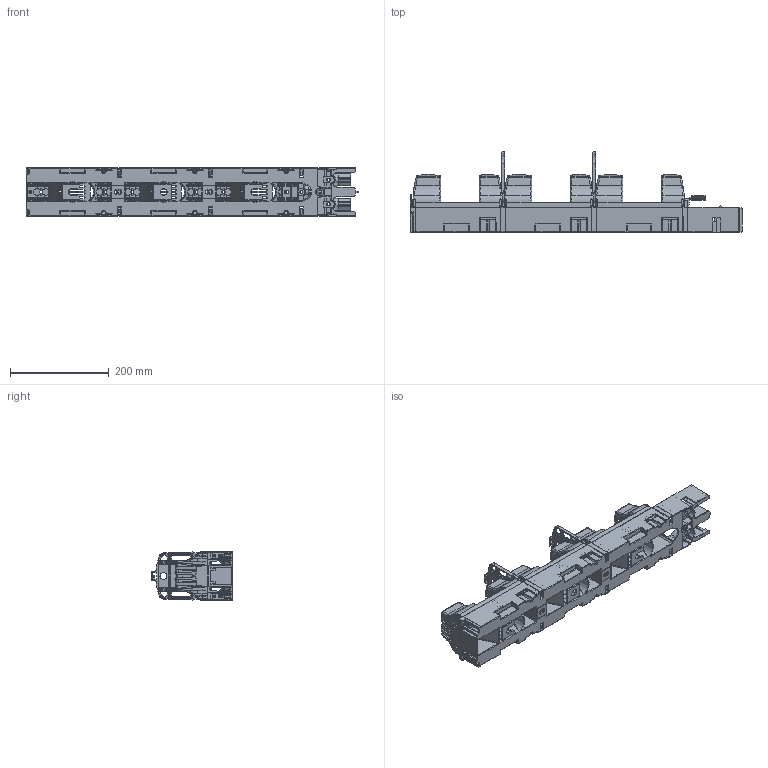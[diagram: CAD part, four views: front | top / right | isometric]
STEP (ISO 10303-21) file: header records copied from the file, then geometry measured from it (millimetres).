
FILE_DESCRIPTION (( 'STEP AP214' ), '1' );
FILE_NAME ('FSR123-3K-LW.step', '2014-11-20T14:08:22', ( '' ), ( '' ), 'SwSTEP 2.0', 'SolidWorks 2011', '' );
FILE_SCHEMA (( 'AUTOMOTIVE_DESIGN' ));
Length unit declared in the file: millimetre
Products named in the file (1): FSR123-3K-LW
Bounding box: 674 x 165 x 99 mm (x, y, z)
Volume: 767089.5 mm3; surface area: 763631.9 mm2
Topology: 15 solids, 15 shells, 6833 faces, 18340 edges, 11189 vertices
Faces by surface type: plane 3062, cylinder 2071, bspline 644, cone 540, sphere 294, torus 222
Entity records: 304778 total; most frequent: CARTESIAN_POINT 67258, ORIENTED_EDGE 36224, DIRECTION 31567, EDGE_CURVE 18112, VERTEX_POINT 11189, VECTOR 10849, LINE 10849, AXIS2_PLACEMENT_3D 10359
